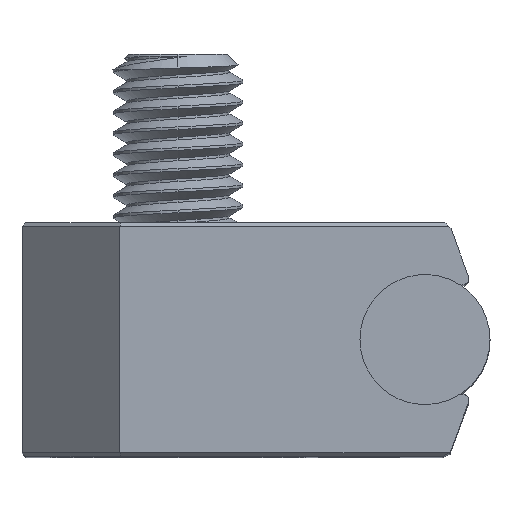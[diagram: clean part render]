
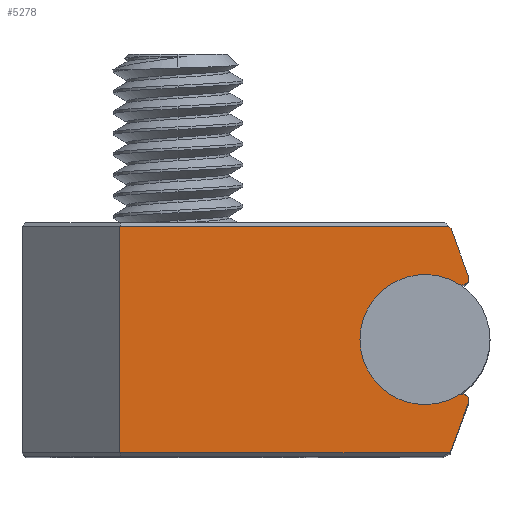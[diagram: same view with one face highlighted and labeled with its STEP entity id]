
A CAD part, top view. The second image highlights one B-rep face of the part: STEP entity #5278.
In plain terms, the highlighted planar face has unit normal (0, 0, 1) as drawn and (0, 0, -1) by its records, which use the part's own axes.
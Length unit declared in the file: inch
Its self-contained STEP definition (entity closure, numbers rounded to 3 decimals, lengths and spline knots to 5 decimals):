
#12 = CARTESIAN_POINT ( 'NONE',  ( -0.23622, -0.17126, -0.59055 ) ) ;
#79 = VECTOR ( 'NONE', #3215, 39.37008 ) ;
#120 = LINE ( 'NONE', #1876, #7682 ) ;
#134 = VECTOR ( 'NONE', #7137, 39.37008 ) ;
#203 = CARTESIAN_POINT ( 'NONE',  ( 0.41009, -0.17126, -0.59055 ) ) ;
#218 = CIRCLE ( 'NONE', #1089, 0.00984 ) ;
#259 = CARTESIAN_POINT ( 'NONE',  ( 0.37402, 0., -0.59055 ) ) ;
#353 = CARTESIAN_POINT ( 'NONE',  ( 0.43972, 0.09575, -0.59055 ) ) ;
#453 = CARTESIAN_POINT ( 'NONE',  ( 0.43047, 0.09239, -0.59055 ) ) ;
#467 = EDGE_CURVE ( 'NONE', #5220, #3337, #6030, .T. ) ;
#542 = VERTEX_POINT ( 'NONE', #4536 ) ;
#587 = CARTESIAN_POINT ( 'NONE',  ( -0.08858, -0.09239, -0.59055 ) ) ;
#676 = DIRECTION ( 'NONE',  ( -0.707, -0.707, 0. ) ) ;
#730 = AXIS2_PLACEMENT_3D ( 'NONE', #259, #5088, #6325 ) ;
#843 = EDGE_CURVE ( 'NONE', #3207, #3485, #6931, .T. ) ;
#955 = CARTESIAN_POINT ( 'NONE',  ( 0.41346, -0.16788, -0.59055 ) ) ;
#1089 = AXIS2_PLACEMENT_3D ( 'NONE', #2851, #5291, #4800 ) ;
#1154 = ORIENTED_EDGE ( 'NONE', *, *, #1765, .F. ) ;
#1160 = ORIENTED_EDGE ( 'NONE', *, *, #2084, .F. ) ;
#1255 = EDGE_CURVE ( 'NONE', #3485, #5220, #120, .T. ) ;
#1765 = EDGE_CURVE ( 'NONE', #5089, #542, #218, .T. ) ;
#1876 = CARTESIAN_POINT ( 'NONE',  ( 0.43047, 0.17126, -0.59055 ) ) ;
#1959 = CARTESIAN_POINT ( 'NONE',  ( 0.37402, 0., -0.59055 ) ) ;
#2084 = EDGE_CURVE ( 'NONE', #6171, #5089, #6321, .T. ) ;
#2147 = ORIENTED_EDGE ( 'NONE', *, *, #1255, .F. ) ;
#2259 = ORIENTED_EDGE ( 'NONE', *, *, #6044, .F. ) ;
#2640 = EDGE_CURVE ( 'NONE', #2771, #3337, #6642, .T. ) ;
#2660 = CARTESIAN_POINT ( 'NONE',  ( 0.41223, 0.17126, -0.59055 ) ) ;
#2771 = VERTEX_POINT ( 'NONE', #203 ) ;
#2851 = CARTESIAN_POINT ( 'NONE',  ( 0.43047, -0.09239, -0.59055 ) ) ;
#2935 = ORIENTED_EDGE ( 'NONE', *, *, #6390, .T. ) ;
#3013 = DIRECTION ( 'NONE',  ( 0., 0., 1. ) ) ;
#3207 = VERTEX_POINT ( 'NONE', #353 ) ;
#3215 = DIRECTION ( 'NONE',  ( -0.342, 0.94, 0. ) ) ;
#3274 = PLANE ( 'NONE',  #4665 ) ;
#3284 = DIRECTION ( 'NONE',  ( 0.342, 0.94, 0. ) ) ;
#3337 = VERTEX_POINT ( 'NONE', #5775 ) ;
#3461 = ORIENTED_EDGE ( 'NONE', *, *, #843, .F. ) ;
#3485 = VERTEX_POINT ( 'NONE', #2660 ) ;
#3639 = CARTESIAN_POINT ( 'NONE',  ( 0.42534, 0.08399, -0.59055 ) ) ;
#3642 = CARTESIAN_POINT ( 'NONE',  ( 0.43972, 0.09575, -0.59055 ) ) ;
#3747 = VECTOR ( 'NONE', #3284, 39.37008 ) ;
#3877 = CARTESIAN_POINT ( 'NONE',  ( 0.43047, -0.09239, -0.59055 ) ) ;
#4211 = DIRECTION ( 'NONE',  ( -1., 0., 0. ) ) ;
#4278 = CARTESIAN_POINT ( 'NONE',  ( 0.41346, -0.16788, -0.59055 ) ) ;
#4403 = CIRCLE ( 'NONE', #6316, 0.00984 ) ;
#4405 = DIRECTION ( 'NONE',  ( 0., 0., -1. ) ) ;
#4508 = ORIENTED_EDGE ( 'NONE', *, *, #2640, .T. ) ;
#4536 = CARTESIAN_POINT ( 'NONE',  ( 0.42534, -0.08399, -0.59055 ) ) ;
#4550 = ORIENTED_EDGE ( 'NONE', *, *, #467, .F. ) ;
#4591 = DIRECTION ( 'NONE',  ( 0., 0., 1. ) ) ;
#4665 = AXIS2_PLACEMENT_3D ( 'NONE', #3877, #4591, #7532 ) ;
#4800 = DIRECTION ( 'NONE',  ( -1., 0., 0. ) ) ;
#4986 = LINE ( 'NONE', #4278, #6203 ) ;
#5088 = DIRECTION ( 'NONE',  ( 0., 0., -1. ) ) ;
#5089 = VERTEX_POINT ( 'NONE', #7805 ) ;
#5113 = FACE_OUTER_BOUND ( 'NONE', #5588, .T. ) ;
#5164 = VECTOR ( 'NONE', #6680, 39.37008 ) ;
#5193 = CIRCLE ( 'NONE', #730, 0.09843 ) ;
#5220 = VERTEX_POINT ( 'NONE', #6673 ) ;
#5237 = VERTEX_POINT ( 'NONE', #3639 ) ;
#5278 = ADVANCED_FACE ( 'NONE', ( #5113 ), #3274, .F. ) ;
#5291 = DIRECTION ( 'NONE',  ( 0., 0., 1. ) ) ;
#5588 = EDGE_LOOP ( 'NONE', ( #2935, #4508, #4550, #2147, #3461, #7283, #5960, #2259, #1154, #1160 ) ) ;
#5775 = CARTESIAN_POINT ( 'NONE',  ( -0.08858, -0.17126, -0.59055 ) ) ;
#5960 = ORIENTED_EDGE ( 'NONE', *, *, #6250, .F. ) ;
#6030 = LINE ( 'NONE', #587, #134 ) ;
#6044 = EDGE_CURVE ( 'NONE', #542, #7190, #6446, .T. ) ;
#6063 = AXIS2_PLACEMENT_3D ( 'NONE', #1959, #4405, #6838 ) ;
#6171 = VERTEX_POINT ( 'NONE', #6278 ) ;
#6203 = VECTOR ( 'NONE', #676, 39.37008 ) ;
#6230 = DIRECTION ( 'NONE',  ( -1., 0., 0. ) ) ;
#6250 = EDGE_CURVE ( 'NONE', #7190, #5237, #5193, .T. ) ;
#6278 = CARTESIAN_POINT ( 'NONE',  ( 0.41346, -0.16788, -0.59055 ) ) ;
#6316 = AXIS2_PLACEMENT_3D ( 'NONE', #453, #3013, #4211 ) ;
#6321 = LINE ( 'NONE', #955, #3747 ) ;
#6325 = DIRECTION ( 'NONE',  ( -1., 0., 0. ) ) ;
#6390 = EDGE_CURVE ( 'NONE', #6171, #2771, #4986, .T. ) ;
#6446 = CIRCLE ( 'NONE', #6063, 0.09843 ) ;
#6642 = LINE ( 'NONE', #12, #5164 ) ;
#6673 = CARTESIAN_POINT ( 'NONE',  ( -0.08858, 0.17126, -0.59055 ) ) ;
#6680 = DIRECTION ( 'NONE',  ( -1., 0., 0. ) ) ;
#6730 = CARTESIAN_POINT ( 'NONE',  ( 0.27559, 0., -0.59055 ) ) ;
#6838 = DIRECTION ( 'NONE',  ( -1., 0., 0. ) ) ;
#6931 = LINE ( 'NONE', #3642, #79 ) ;
#7058 = EDGE_CURVE ( 'NONE', #5237, #3207, #4403, .T. ) ;
#7137 = DIRECTION ( 'NONE',  ( 0., -1., 0. ) ) ;
#7190 = VERTEX_POINT ( 'NONE', #6730 ) ;
#7283 = ORIENTED_EDGE ( 'NONE', *, *, #7058, .F. ) ;
#7532 = DIRECTION ( 'NONE',  ( 1., 0., 0. ) ) ;
#7682 = VECTOR ( 'NONE', #6230, 39.37008 ) ;
#7805 = CARTESIAN_POINT ( 'NONE',  ( 0.43972, -0.09575, -0.59055 ) ) ;
